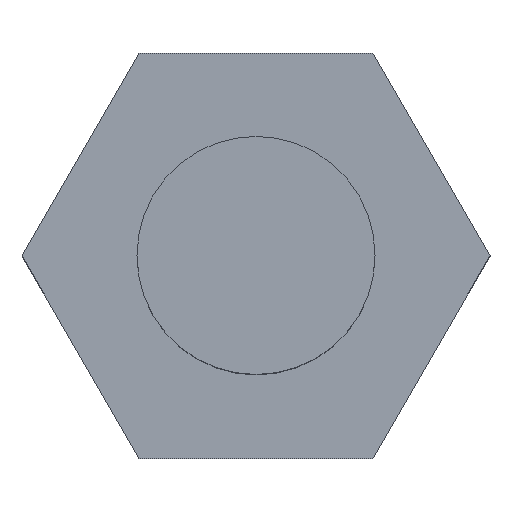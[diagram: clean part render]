
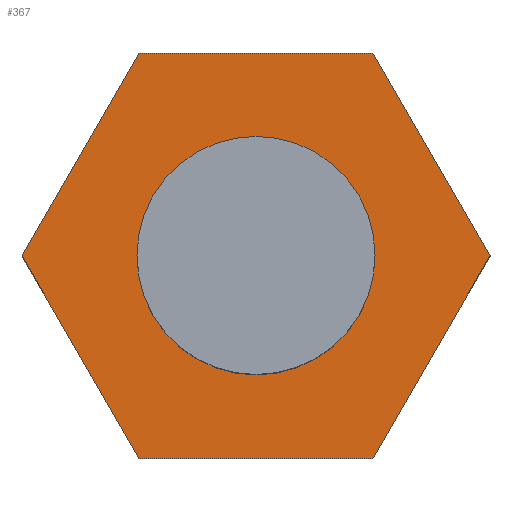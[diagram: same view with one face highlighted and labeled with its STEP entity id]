
A CAD part, top view. The second image highlights one B-rep face of the part: STEP entity #367.
In plain terms, the highlighted planar face has unit normal (0, 0, 1).
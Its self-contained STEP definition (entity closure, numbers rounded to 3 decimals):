
#24 = VERTEX_POINT('',#25);
#25 = CARTESIAN_POINT('',(22.21,0.,13.5));
#32 = PLANE('',#33);
#33 = AXIS2_PLACEMENT_3D('',#34,#35,#36);
#34 = CARTESIAN_POINT('',(22.21,0.,0.));
#35 = DIRECTION('',(-0.866,-0.5,0.));
#36 = DIRECTION('',(-0.5,0.866,0.));
#44 = PLANE('',#45);
#45 = AXIS2_PLACEMENT_3D('',#46,#47,#48);
#46 = CARTESIAN_POINT('',(11.105,-19.234,0.));
#47 = DIRECTION('',(-0.866,0.5,0.));
#48 = DIRECTION('',(0.5,0.866,0.));
#56 = EDGE_CURVE('',#24,#57,#59,.T.);
#57 = VERTEX_POINT('',#58);
#58 = CARTESIAN_POINT('',(11.105,19.234,13.5));
#59 = SURFACE_CURVE('',#60,(#64,#71),.PCURVE_S1.);
#60 = LINE('',#61,#62);
#61 = CARTESIAN_POINT('',(22.21,0.,13.5));
#62 = VECTOR('',#63,1.);
#63 = DIRECTION('',(-0.5,0.866,0.));
#64 = PCURVE('',#32,#65);
#65 = DEFINITIONAL_REPRESENTATION('',(#66),#70);
#66 = LINE('',#67,#68);
#67 = CARTESIAN_POINT('',(0.,-13.5));
#68 = VECTOR('',#69,1.);
#69 = DIRECTION('',(1.,0.));
#70 = ( GEOMETRIC_REPRESENTATION_CONTEXT(2) 
PARAMETRIC_REPRESENTATION_CONTEXT() REPRESENTATION_CONTEXT('2D SPACE',''
  ) );
#71 = PCURVE('',#72,#77);
#72 = PLANE('',#73);
#73 = AXIS2_PLACEMENT_3D('',#74,#75,#76);
#74 = CARTESIAN_POINT('',(0.,0.,13.5)
  );
#75 = DIRECTION('',(0.,0.,1.));
#76 = DIRECTION('',(1.,0.,-0.));
#77 = DEFINITIONAL_REPRESENTATION('',(#78),#82);
#78 = LINE('',#79,#80);
#79 = CARTESIAN_POINT('',(22.21,0.));
#80 = VECTOR('',#81,1.);
#81 = DIRECTION('',(-0.5,0.866));
#82 = ( GEOMETRIC_REPRESENTATION_CONTEXT(2) 
PARAMETRIC_REPRESENTATION_CONTEXT() REPRESENTATION_CONTEXT('2D SPACE',''
  ) );
#100 = PLANE('',#101);
#101 = AXIS2_PLACEMENT_3D('',#102,#103,#104);
#102 = CARTESIAN_POINT('',(11.105,19.234,0.));
#103 = DIRECTION('',(0.,-1.,0.));
#104 = DIRECTION('',(-1.,0.,0.));
#144 = VERTEX_POINT('',#145);
#145 = CARTESIAN_POINT('',(11.105,-19.234,13.5));
#159 = PLANE('',#160);
#160 = AXIS2_PLACEMENT_3D('',#161,#162,#163);
#161 = CARTESIAN_POINT('',(-11.105,-19.234,0.));
#162 = DIRECTION('',(0.,1.,-0.));
#163 = DIRECTION('',(1.,0.,0.));
#171 = EDGE_CURVE('',#144,#24,#172,.T.);
#172 = SURFACE_CURVE('',#173,(#177,#184),.PCURVE_S1.);
#173 = LINE('',#174,#175);
#174 = CARTESIAN_POINT('',(11.105,-19.234,13.5));
#175 = VECTOR('',#176,1.);
#176 = DIRECTION('',(0.5,0.866,0.));
#177 = PCURVE('',#44,#178);
#178 = DEFINITIONAL_REPRESENTATION('',(#179),#183);
#179 = LINE('',#180,#181);
#180 = CARTESIAN_POINT('',(0.,-13.5));
#181 = VECTOR('',#182,1.);
#182 = DIRECTION('',(1.,0.));
#183 = ( GEOMETRIC_REPRESENTATION_CONTEXT(2) 
PARAMETRIC_REPRESENTATION_CONTEXT() REPRESENTATION_CONTEXT('2D SPACE',''
  ) );
#184 = PCURVE('',#72,#185);
#185 = DEFINITIONAL_REPRESENTATION('',(#186),#190);
#186 = LINE('',#187,#188);
#187 = CARTESIAN_POINT('',(11.105,-19.234));
#188 = VECTOR('',#189,1.);
#189 = DIRECTION('',(0.5,0.866));
#190 = ( GEOMETRIC_REPRESENTATION_CONTEXT(2) 
PARAMETRIC_REPRESENTATION_CONTEXT() REPRESENTATION_CONTEXT('2D SPACE',''
  ) );
#218 = EDGE_CURVE('',#57,#219,#221,.T.);
#219 = VERTEX_POINT('',#220);
#220 = CARTESIAN_POINT('',(-11.105,19.234,13.5));
#221 = SURFACE_CURVE('',#222,(#226,#233),.PCURVE_S1.);
#222 = LINE('',#223,#224);
#223 = CARTESIAN_POINT('',(11.105,19.234,13.5));
#224 = VECTOR('',#225,1.);
#225 = DIRECTION('',(-1.,0.,0.));
#226 = PCURVE('',#100,#227);
#227 = DEFINITIONAL_REPRESENTATION('',(#228),#232);
#228 = LINE('',#229,#230);
#229 = CARTESIAN_POINT('',(0.,-13.5));
#230 = VECTOR('',#231,1.);
#231 = DIRECTION('',(1.,0.));
#232 = ( GEOMETRIC_REPRESENTATION_CONTEXT(2) 
PARAMETRIC_REPRESENTATION_CONTEXT() REPRESENTATION_CONTEXT('2D SPACE',''
  ) );
#233 = PCURVE('',#72,#234);
#234 = DEFINITIONAL_REPRESENTATION('',(#235),#239);
#235 = LINE('',#236,#237);
#236 = CARTESIAN_POINT('',(11.105,19.234));
#237 = VECTOR('',#238,1.);
#238 = DIRECTION('',(-1.,0.));
#239 = ( GEOMETRIC_REPRESENTATION_CONTEXT(2) 
PARAMETRIC_REPRESENTATION_CONTEXT() REPRESENTATION_CONTEXT('2D SPACE',''
  ) );
#257 = PLANE('',#258);
#258 = AXIS2_PLACEMENT_3D('',#259,#260,#261);
#259 = CARTESIAN_POINT('',(-11.105,19.234,0.));
#260 = DIRECTION('',(0.866,-0.5,0.));
#261 = DIRECTION('',(-0.5,-0.866,0.));
#334 = PLANE('',#335);
#335 = AXIS2_PLACEMENT_3D('',#336,#337,#338);
#336 = CARTESIAN_POINT('',(-22.21,0.,0.));
#337 = DIRECTION('',(0.866,0.5,-0.));
#338 = DIRECTION('',(0.5,-0.866,0.));
#367 = ADVANCED_FACE('',(#368,#440),#72,.T.);
#368 = FACE_BOUND('',#369,.T.);
#369 = EDGE_LOOP('',(#370,#371,#372,#395,#418,#439));
#370 = ORIENTED_EDGE('',*,*,#56,.T.);
#371 = ORIENTED_EDGE('',*,*,#218,.T.);
#372 = ORIENTED_EDGE('',*,*,#373,.T.);
#373 = EDGE_CURVE('',#219,#374,#376,.T.);
#374 = VERTEX_POINT('',#375);
#375 = CARTESIAN_POINT('',(-22.21,0.,13.5));
#376 = SURFACE_CURVE('',#377,(#381,#388),.PCURVE_S1.);
#377 = LINE('',#378,#379);
#378 = CARTESIAN_POINT('',(-11.105,19.234,13.5));
#379 = VECTOR('',#380,1.);
#380 = DIRECTION('',(-0.5,-0.866,0.));
#381 = PCURVE('',#72,#382);
#382 = DEFINITIONAL_REPRESENTATION('',(#383),#387);
#383 = LINE('',#384,#385);
#384 = CARTESIAN_POINT('',(-11.105,19.234));
#385 = VECTOR('',#386,1.);
#386 = DIRECTION('',(-0.5,-0.866));
#387 = ( GEOMETRIC_REPRESENTATION_CONTEXT(2) 
PARAMETRIC_REPRESENTATION_CONTEXT() REPRESENTATION_CONTEXT('2D SPACE',''
  ) );
#388 = PCURVE('',#257,#389);
#389 = DEFINITIONAL_REPRESENTATION('',(#390),#394);
#390 = LINE('',#391,#392);
#391 = CARTESIAN_POINT('',(0.,-13.5));
#392 = VECTOR('',#393,1.);
#393 = DIRECTION('',(1.,0.));
#394 = ( GEOMETRIC_REPRESENTATION_CONTEXT(2) 
PARAMETRIC_REPRESENTATION_CONTEXT() REPRESENTATION_CONTEXT('2D SPACE',''
  ) );
#395 = ORIENTED_EDGE('',*,*,#396,.T.);
#396 = EDGE_CURVE('',#374,#397,#399,.T.);
#397 = VERTEX_POINT('',#398);
#398 = CARTESIAN_POINT('',(-11.105,-19.234,13.5));
#399 = SURFACE_CURVE('',#400,(#404,#411),.PCURVE_S1.);
#400 = LINE('',#401,#402);
#401 = CARTESIAN_POINT('',(-22.21,0.,13.5));
#402 = VECTOR('',#403,1.);
#403 = DIRECTION('',(0.5,-0.866,0.));
#404 = PCURVE('',#72,#405);
#405 = DEFINITIONAL_REPRESENTATION('',(#406),#410);
#406 = LINE('',#407,#408);
#407 = CARTESIAN_POINT('',(-22.21,0.));
#408 = VECTOR('',#409,1.);
#409 = DIRECTION('',(0.5,-0.866));
#410 = ( GEOMETRIC_REPRESENTATION_CONTEXT(2) 
PARAMETRIC_REPRESENTATION_CONTEXT() REPRESENTATION_CONTEXT('2D SPACE',''
  ) );
#411 = PCURVE('',#334,#412);
#412 = DEFINITIONAL_REPRESENTATION('',(#413),#417);
#413 = LINE('',#414,#415);
#414 = CARTESIAN_POINT('',(0.,-13.5));
#415 = VECTOR('',#416,1.);
#416 = DIRECTION('',(1.,0.));
#417 = ( GEOMETRIC_REPRESENTATION_CONTEXT(2) 
PARAMETRIC_REPRESENTATION_CONTEXT() REPRESENTATION_CONTEXT('2D SPACE',''
  ) );
#418 = ORIENTED_EDGE('',*,*,#419,.T.);
#419 = EDGE_CURVE('',#397,#144,#420,.T.);
#420 = SURFACE_CURVE('',#421,(#425,#432),.PCURVE_S1.);
#421 = LINE('',#422,#423);
#422 = CARTESIAN_POINT('',(-11.105,-19.234,13.5));
#423 = VECTOR('',#424,1.);
#424 = DIRECTION('',(1.,0.,0.));
#425 = PCURVE('',#72,#426);
#426 = DEFINITIONAL_REPRESENTATION('',(#427),#431);
#427 = LINE('',#428,#429);
#428 = CARTESIAN_POINT('',(-11.105,-19.234));
#429 = VECTOR('',#430,1.);
#430 = DIRECTION('',(1.,0.));
#431 = ( GEOMETRIC_REPRESENTATION_CONTEXT(2) 
PARAMETRIC_REPRESENTATION_CONTEXT() REPRESENTATION_CONTEXT('2D SPACE',''
  ) );
#432 = PCURVE('',#159,#433);
#433 = DEFINITIONAL_REPRESENTATION('',(#434),#438);
#434 = LINE('',#435,#436);
#435 = CARTESIAN_POINT('',(0.,-13.5));
#436 = VECTOR('',#437,1.);
#437 = DIRECTION('',(1.,0.));
#438 = ( GEOMETRIC_REPRESENTATION_CONTEXT(2) 
PARAMETRIC_REPRESENTATION_CONTEXT() REPRESENTATION_CONTEXT('2D SPACE',''
  ) );
#439 = ORIENTED_EDGE('',*,*,#171,.T.);
#440 = FACE_BOUND('',#441,.T.);
#441 = EDGE_LOOP('',(#442));
#442 = ORIENTED_EDGE('',*,*,#443,.F.);
#443 = EDGE_CURVE('',#444,#444,#446,.T.);
#444 = VERTEX_POINT('',#445);
#445 = CARTESIAN_POINT('',(11.3,0.,13.5));
#446 = SURFACE_CURVE('',#447,(#452,#459),.PCURVE_S1.);
#447 = CIRCLE('',#448,11.3);
#448 = AXIS2_PLACEMENT_3D('',#449,#450,#451);
#449 = CARTESIAN_POINT('',(0.,0.,13.5));
#450 = DIRECTION('',(0.,0.,1.));
#451 = DIRECTION('',(1.,0.,0.));
#452 = PCURVE('',#72,#453);
#453 = DEFINITIONAL_REPRESENTATION('',(#454),#458);
#454 = CIRCLE('',#455,11.3);
#455 = AXIS2_PLACEMENT_2D('',#456,#457);
#456 = CARTESIAN_POINT('',(0.,0.));
#457 = DIRECTION('',(1.,0.));
#458 = ( GEOMETRIC_REPRESENTATION_CONTEXT(2) 
PARAMETRIC_REPRESENTATION_CONTEXT() REPRESENTATION_CONTEXT('2D SPACE',''
  ) );
#459 = PCURVE('',#460,#465);
#460 = CYLINDRICAL_SURFACE('',#461,11.3);
#461 = AXIS2_PLACEMENT_3D('',#462,#463,#464);
#462 = CARTESIAN_POINT('',(0.,0.,13.5));
#463 = DIRECTION('',(-0.,-0.,-1.));
#464 = DIRECTION('',(1.,0.,0.));
#465 = DEFINITIONAL_REPRESENTATION('',(#466),#470);
#466 = LINE('',#467,#468);
#467 = CARTESIAN_POINT('',(-0.,0.));
#468 = VECTOR('',#469,1.);
#469 = DIRECTION('',(-1.,0.));
#470 = ( GEOMETRIC_REPRESENTATION_CONTEXT(2) 
PARAMETRIC_REPRESENTATION_CONTEXT() REPRESENTATION_CONTEXT('2D SPACE',''
  ) );
